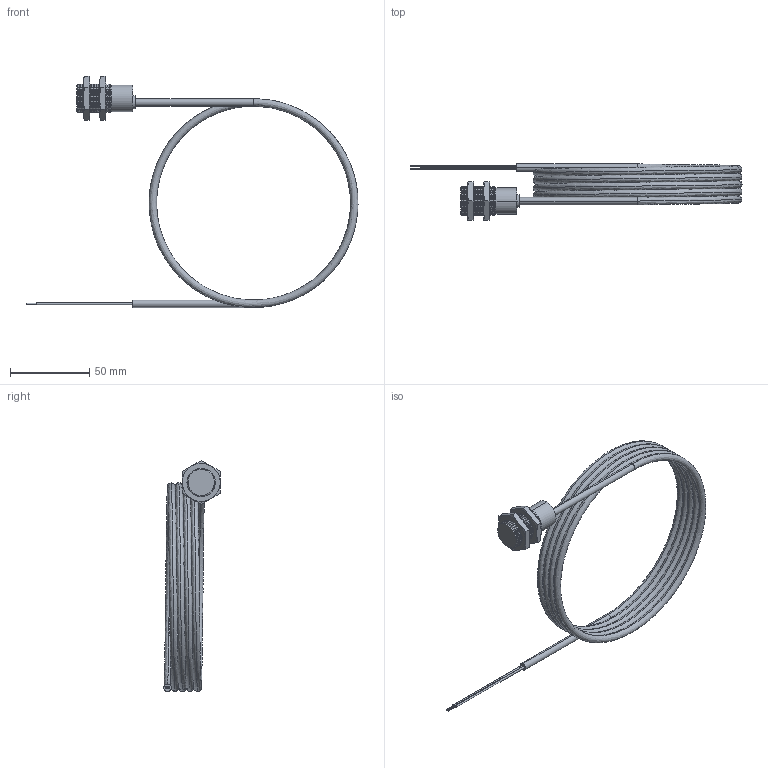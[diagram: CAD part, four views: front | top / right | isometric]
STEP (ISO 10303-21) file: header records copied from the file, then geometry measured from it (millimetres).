
FILE_DESCRIPTION (( 'STEP AP203' ), '1' );
FILE_NAME ('90-XXXX-002.STEP', '2015-10-28T13:06:18', ( 'Sam' ), ( 'Spade' ), 'SwSTEP 2.0', 'SolidWorks 2002296', '' );
FILE_SCHEMA (( 'CONFIG_CONTROL_DESIGN' ));
Length unit declared in the file: inch
Products named in the file (13): 90-XXXX-002; Imported8; Imported11; Imported10; Imported9; Imported15; Imported14; Imported13; Imported12; Imported18; Imported17; Imported16; Imported19
Assembly tree (12 placements, depth 2):
  90-XXXX-002
    Imported15
    Imported13
    Imported19
    Imported11
    Imported8
    Imported12
    Imported10
    Imported16
    Imported9
    Imported18
    Imported14
    Imported17
Bounding box: 209.36 x 35.6 x 145.73 mm (x, y, z)
Volume: 45727.6 mm3; surface area: 36174.6 mm2
Topology: 12 solids, 12 shells, 269 faces, 540 edges, 302 vertices
Faces by surface type: cone 148, cylinder 68, plane 43, bspline 10
Entity records: 10001 total; most frequent: CARTESIAN_POINT 3002, DIRECTION 1292, ORIENTED_EDGE 1080, AXIS2_PLACEMENT_3D 544, EDGE_CURVE 540, VERTEX_POINT 302, EDGE_LOOP 280, CIRCLE 270
